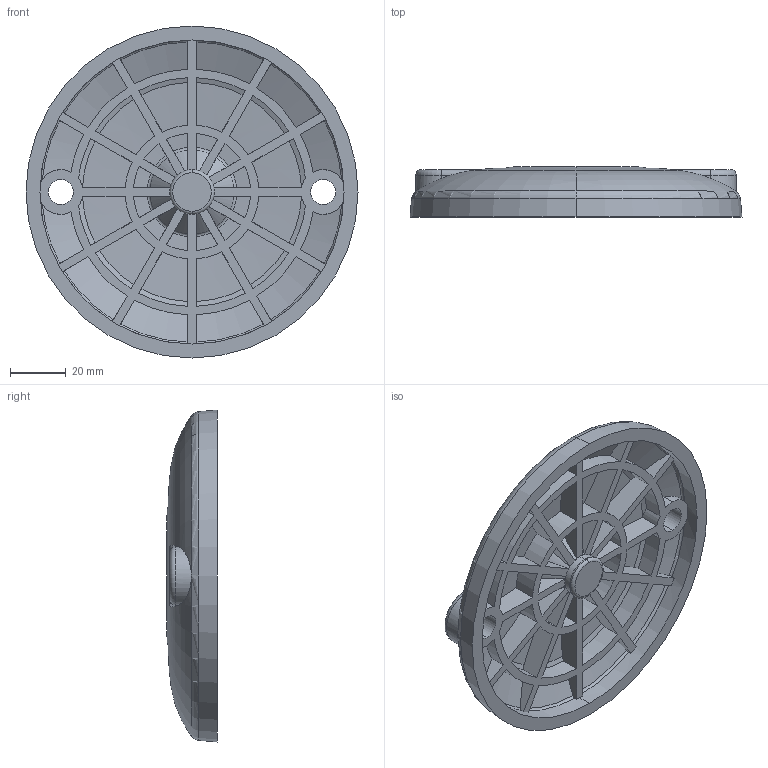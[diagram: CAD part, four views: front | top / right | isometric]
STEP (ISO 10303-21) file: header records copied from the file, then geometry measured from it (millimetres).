
FILE_DESCRIPTION(('STEP AP214'),'1');
FILE_NAME('fath_098d120kb.stp','2017-04-24T02:24:57',('TraceParts'),('TraceParts S.A.'),'Spatial InterOp 3D',' ',' ');
FILE_SCHEMA(('automotive_design'));
Length unit declared in the file: millimetre
Products named in the file (1): fath_098d120kb
Bounding box: 119 x 18 x 119 mm (x, y, z)
Volume: 81494.9 mm3; surface area: 39984.9 mm2
Topology: 1 solids, 1 shells, 272 faces, 726 edges, 469 vertices
Faces by surface type: cylinder 88, plane 78, cone 64, torus 40, sphere 2
Entity records: 11379 total; most frequent: CARTESIAN_POINT 2520, ORIENTED_EDGE 1448, DIRECTION 1360, EDGE_CURVE 724, AXIS2_PLACEMENT_3D 557, VERTEX_POINT 469, EDGE_LOOP 291, CIRCLE 284
